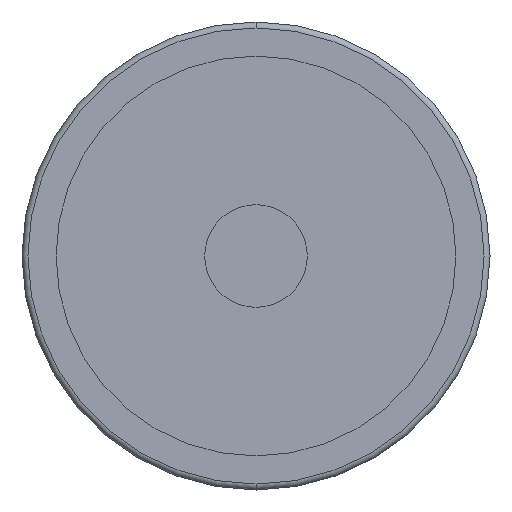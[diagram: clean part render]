
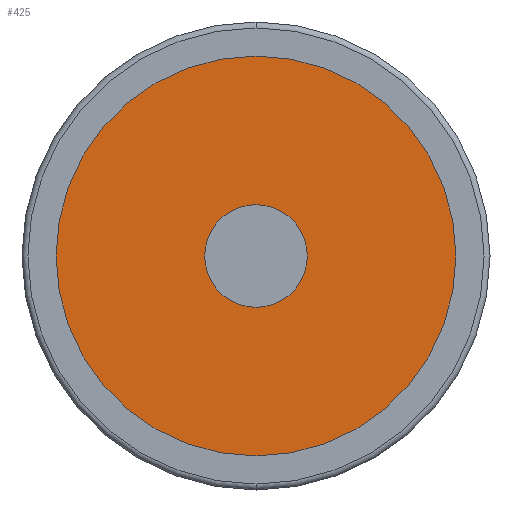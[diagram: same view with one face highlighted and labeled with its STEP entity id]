
A CAD part, front view. The second image highlights one B-rep face of the part: STEP entity #425.
In plain terms, the highlighted planar face has unit normal (0, -1, 0).
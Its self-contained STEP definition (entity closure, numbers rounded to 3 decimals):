
#194 = VERTEX_POINT ( 'NONE', #2908 ) ;
#223 = CARTESIAN_POINT ( 'NONE',  ( 8., 4.5, 0. ) ) ;
#351 = CARTESIAN_POINT ( 'NONE',  ( 34.25, 4.5, 0. ) ) ;
#377 = ORIENTED_EDGE ( 'NONE', *, *, #2076, .T. ) ;
#382 = CIRCLE ( 'NONE', #2020, 34.25 ) ;
#425 = ADVANCED_FACE ( 'NONE', ( #1900, #2150 ), #3094, .T. ) ;
#426 = AXIS2_PLACEMENT_3D ( 'NONE', #1884, #2611, #1121 ) ;
#471 = DIRECTION ( 'NONE',  ( 0., -1., 0. ) ) ;
#472 = EDGE_CURVE ( 'NONE', #903, #194, #1853, .T. ) ;
#503 = EDGE_LOOP ( 'NONE', ( #1527, #2247 ) ) ;
#547 = AXIS2_PLACEMENT_3D ( 'NONE', #1217, #471, #1466 ) ;
#594 = EDGE_LOOP ( 'NONE', ( #377, #2367 ) ) ;
#881 = EDGE_CURVE ( 'NONE', #194, #903, #2577, .T. ) ;
#903 = VERTEX_POINT ( 'NONE', #223 ) ;
#978 = AXIS2_PLACEMENT_3D ( 'NONE', #1634, #1888, #1129 ) ;
#1037 = VERTEX_POINT ( 'NONE', #2616 ) ;
#1121 = DIRECTION ( 'NONE',  ( 1., 0., 0. ) ) ;
#1129 = DIRECTION ( 'NONE',  ( 1., 0., 0. ) ) ;
#1217 = CARTESIAN_POINT ( 'NONE',  ( 0., 4.5, 0. ) ) ;
#1337 = DIRECTION ( 'NONE',  ( 1., 0., 0. ) ) ;
#1368 = DIRECTION ( 'NONE',  ( 0., -1., 0. ) ) ;
#1466 = DIRECTION ( 'NONE',  ( 1., 0., 0. ) ) ;
#1527 = ORIENTED_EDGE ( 'NONE', *, *, #472, .F. ) ;
#1634 = CARTESIAN_POINT ( 'NONE',  ( 0., 4.5, 0. ) ) ;
#1713 = DIRECTION ( 'NONE',  ( 0., -1., 0. ) ) ;
#1848 = CARTESIAN_POINT ( 'NONE',  ( -34.25, 4.5, 0. ) ) ;
#1853 = CIRCLE ( 'NONE', #426, 8. ) ;
#1884 = CARTESIAN_POINT ( 'NONE',  ( 0., 4.5, 0. ) ) ;
#1888 = DIRECTION ( 'NONE',  ( 0., -1., 0. ) ) ;
#1900 = FACE_OUTER_BOUND ( 'NONE', #594, .T. ) ;
#2020 = AXIS2_PLACEMENT_3D ( 'NONE', #2435, #1713, #2498 ) ;
#2076 = EDGE_CURVE ( 'NONE', #1037, #2831, #2235, .T. ) ;
#2150 = FACE_BOUND ( 'NONE', #503, .T. ) ;
#2235 = CIRCLE ( 'NONE', #978, 34.25 ) ;
#2247 = ORIENTED_EDGE ( 'NONE', *, *, #881, .F. ) ;
#2367 = ORIENTED_EDGE ( 'NONE', *, *, #2966, .T. ) ;
#2411 = AXIS2_PLACEMENT_3D ( 'NONE', #1848, #1368, #1337 ) ;
#2435 = CARTESIAN_POINT ( 'NONE',  ( 0., 4.5, 0. ) ) ;
#2498 = DIRECTION ( 'NONE',  ( 1., 0., 0. ) ) ;
#2577 = CIRCLE ( 'NONE', #547, 8. ) ;
#2611 = DIRECTION ( 'NONE',  ( 0., -1., 0. ) ) ;
#2616 = CARTESIAN_POINT ( 'NONE',  ( -34.25, 4.5, 0. ) ) ;
#2831 = VERTEX_POINT ( 'NONE', #351 ) ;
#2908 = CARTESIAN_POINT ( 'NONE',  ( -8., 4.5, 0. ) ) ;
#2966 = EDGE_CURVE ( 'NONE', #2831, #1037, #382, .T. ) ;
#3094 = PLANE ( 'NONE',  #2411 ) ;
